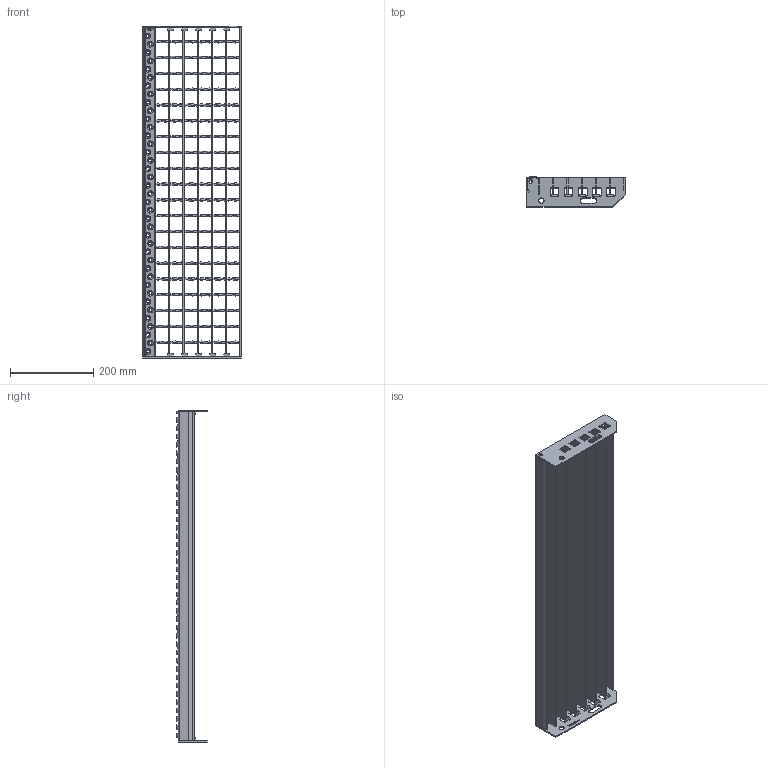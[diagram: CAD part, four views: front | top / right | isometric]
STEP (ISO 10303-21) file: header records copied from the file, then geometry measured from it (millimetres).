
FILE_DESCRIPTION(/* description */ ('','CAx-IF Rec.Pracs.---Representation and Presentation of Product Manufacturing Information (PMI)---3.8---2014-02-18'),/* implementation_level */ '2;1');
FILE_NAME(/* name */ 'C:\Users\phaverkotte\Desktop\Lager STEP\SP-Stufen\SP 340-34 38-3\SP 340-34 38-3 800mm x240mm.stp',/* time_stamp */ '2018-03-24T11:55:24+01:00',/* author */ ('phaverkotte'),/* organization */ (''),/* preprocessor_version */ 'ST-DEVELOPER v16.13',/* originating_system */ 'Autodesk Inventor 2018',/* authorisation */ '');
FILE_SCHEMA (('AP242_MANAGED_MODEL_BASED_3D_ENGINEERING_MIM_LF { 1 0 10303 442 1 1 4 }'));
Length unit declared in the file: millimetre
Products named in the file (8): Stufe SP; Seitenplatte ausgeklinkt links; Seitenplatte 240 ausgeklinkt extern rechts; Schod nášlap; SP Rošt schodu; Nosny pas; Krouceny drat; Hinteres Flach
Assembly tree (31 placements, depth 3):
  Stufe SP
    Seitenplatte ausgeklinkt links
    Seitenplatte 240 ausgeklinkt extern rechts
    Schod nášlap
    SP Rošt schodu
      Nosny pas  x6
      Krouceny drat  x20
      Hinteres Flach
Bounding box: 236.98 x 72.75 x 800 mm (x, y, z)
Volume: 901672.7 mm3; surface area: 698033.2 mm2
Topology: 30 solids, 30 shells, 980 faces, 2610 edges, 1707 vertices
Faces by surface type: plane 488, cylinder 232, cone 120, bspline 100, torus 40
Full cylindrical faces by diameter (mm): 8 x2, 13 x2
Entity records: 23328 total; most frequent: CARTESIAN_POINT 7437, DIRECTION 3200, ORIENTED_EDGE 2968, EDGE_CURVE 1484, AXIS2_PLACEMENT_3D 1116, VERTEX_POINT 1037, LINE 968, VECTOR 968
